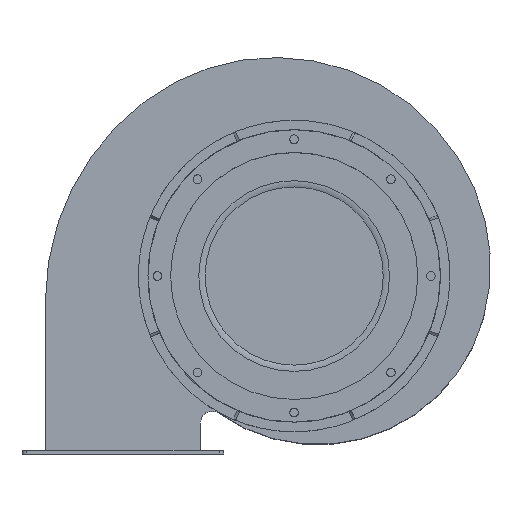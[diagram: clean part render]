
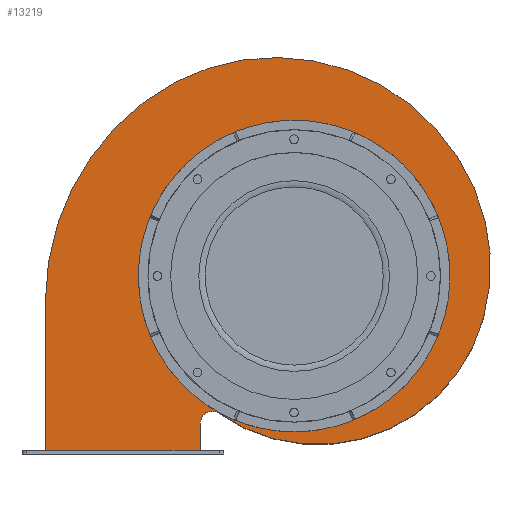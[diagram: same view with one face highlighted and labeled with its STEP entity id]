
A CAD part, top view. The second image highlights one B-rep face of the part: STEP entity #13219.
In plain terms, the highlighted planar face has unit normal (0, 0, 1).
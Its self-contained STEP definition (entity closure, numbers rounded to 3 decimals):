
#234=FACE_BOUND('',#2934,.T.);
#1541=PLANE('',#13652);
#2178=FACE_OUTER_BOUND('',#2933,.T.);
#2933=EDGE_LOOP('',(#11618,#11619,#11620,#11621,#11622,#11623,#11624,#11625));
#2934=EDGE_LOOP('',(#11626));
#3339=CIRCLE('',#13653,15.);
#3340=CIRCLE('',#13654,216.037);
#3341=CIRCLE('',#13655,247.264);
#3342=CIRCLE('',#13656,272.592);
#3343=CIRCLE('',#13657,314.929);
#3344=CIRCLE('',#13658,196.);
#4114=LINE('',#30084,#5064);
#4118=LINE('',#30100,#5068);
#4119=LINE('',#30111,#5069);
#5064=VECTOR('',#15082,10.);
#5068=VECTOR('',#15096,10.);
#5069=VECTOR('',#15107,10.);
#6383=VERTEX_POINT('',#30082);
#6384=VERTEX_POINT('',#30083);
#6391=VERTEX_POINT('',#30099);
#6392=VERTEX_POINT('',#30101);
#6393=VERTEX_POINT('',#30103);
#6394=VERTEX_POINT('',#30105);
#6395=VERTEX_POINT('',#30107);
#6396=VERTEX_POINT('',#30109);
#6397=VERTEX_POINT('',#30112);
#8186=EDGE_CURVE('',#6383,#6384,#4114,.T.);
#8194=EDGE_CURVE('',#6391,#6384,#4118,.T.);
#8195=EDGE_CURVE('',#6392,#6391,#3339,.T.);
#8196=EDGE_CURVE('',#6392,#6393,#3340,.T.);
#8197=EDGE_CURVE('',#6393,#6394,#3341,.T.);
#8198=EDGE_CURVE('',#6394,#6395,#3342,.T.);
#8199=EDGE_CURVE('',#6395,#6396,#3343,.T.);
#8200=EDGE_CURVE('',#6396,#6383,#4119,.T.);
#8201=EDGE_CURVE('',#6397,#6397,#3344,.T.);
#11618=ORIENTED_EDGE('',*,*,#8186,.T.);
#11619=ORIENTED_EDGE('',*,*,#8194,.F.);
#11620=ORIENTED_EDGE('',*,*,#8195,.F.);
#11621=ORIENTED_EDGE('',*,*,#8196,.T.);
#11622=ORIENTED_EDGE('',*,*,#8197,.T.);
#11623=ORIENTED_EDGE('',*,*,#8198,.T.);
#11624=ORIENTED_EDGE('',*,*,#8199,.T.);
#11625=ORIENTED_EDGE('',*,*,#8200,.T.);
#11626=ORIENTED_EDGE('',*,*,#8201,.T.);
#13219=ADVANCED_FACE('',(#2178,#234),#1541,.F.);
#13652=AXIS2_PLACEMENT_3D('',#30098,#15094,#15095);
#13653=AXIS2_PLACEMENT_3D('',#30102,#15097,#15098);
#13654=AXIS2_PLACEMENT_3D('',#30104,#15099,#15100);
#13655=AXIS2_PLACEMENT_3D('',#30106,#15101,#15102);
#13656=AXIS2_PLACEMENT_3D('',#30108,#15103,#15104);
#13657=AXIS2_PLACEMENT_3D('',#30110,#15105,#15106);
#13658=AXIS2_PLACEMENT_3D('',#30113,#15108,#15109);
#15082=DIRECTION('',(1.,0.,0.));
#15094=DIRECTION('center_axis',(0.,0.,
-1.));
#15095=DIRECTION('ref_axis',(-1.,0.,0.));
#15096=DIRECTION('',(0.,-1.,0.));
#15097=DIRECTION('center_axis',(0.,0.,
1.));
#15098=DIRECTION('ref_axis',(-1.,0.,0.));
#15099=DIRECTION('center_axis',(0.,0.,
1.));
#15100=DIRECTION('ref_axis',(0.953,-0.301,0.));
#15101=DIRECTION('center_axis',(0.,0.,
1.));
#15102=DIRECTION('ref_axis',(0.946,0.324,0.));
#15103=DIRECTION('center_axis',(0.,0.,
1.));
#15104=DIRECTION('ref_axis',(0.615,0.789,0.));
#15105=DIRECTION('center_axis',(0.,0.,
1.));
#15106=DIRECTION('ref_axis',(-0.997,0.077,0.));
#15107=DIRECTION('',(0.,-1.,0.));
#15108=DIRECTION('center_axis',(0.,0.,
-1.));
#15109=DIRECTION('ref_axis',(0.,-1.,0.));
#30082=CARTESIAN_POINT('',(-313.,-219.,3.));
#30083=CARTESIAN_POINT('',(-118.,-219.,3.));
#30084=CARTESIAN_POINT('',(-262.75,-219.,3.));
#30098=CARTESIAN_POINT('Origin',(131.522,-131.522,3.));
#30099=CARTESIAN_POINT('',(-118.,-185.,3.));
#30100=CARTESIAN_POINT('',(-118.,228.161,3.));
#30101=CARTESIAN_POINT('',(-94.376,-172.727,3.));
#30102=CARTESIAN_POINT('Origin',(-103.,-185.,3.));
#30103=CARTESIAN_POINT('',(238.008,-53.693,3.));
#30104=CARTESIAN_POINT('Origin',(29.827,4.037,3.));
#30105=CARTESIAN_POINT('',(227.022,109.749,3.));
#30106=CARTESIAN_POINT('Origin',(-0.264,12.382,3.));
#30107=CARTESIAN_POINT('',(-187.57,220.129,3.));
#30108=CARTESIAN_POINT('Origin',(-23.546,2.408,3.));
#30109=CARTESIAN_POINT('',(-313.,-31.407,3.));
#30110=CARTESIAN_POINT('Origin',(1.929,-31.407,3.));
#30111=CARTESIAN_POINT('',(-313.,-177.31,3.));
#30112=CARTESIAN_POINT('',(-77.251,-180.134,3.));
#30113=CARTESIAN_POINT('Origin',(0.,0.,
3.));
